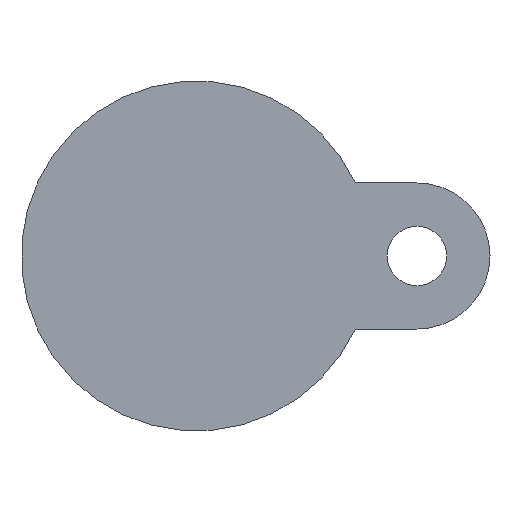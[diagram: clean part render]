
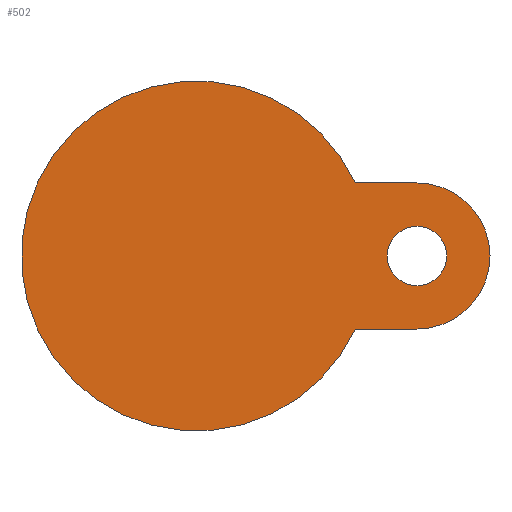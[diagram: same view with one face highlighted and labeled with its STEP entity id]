
A CAD part, front view. The second image highlights one B-rep face of the part: STEP entity #502.
In plain terms, the highlighted planar face has unit normal (0, -1, 0).
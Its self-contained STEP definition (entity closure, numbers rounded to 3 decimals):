
#124 = AXIS2_PLACEMENT_3D ( 'NONE', #2618, #2238, #3628 ) ;
#165 = VERTEX_POINT ( 'NONE', #2855 ) ;
#334 = CIRCLE ( 'NONE', #1865, 8.75 ) ;
#359 = PLANE ( 'NONE',  #4274 ) ;
#425 = DIRECTION ( 'NONE',  ( 1., 0., 0. ) ) ;
#429 = DIRECTION ( 'NONE',  ( 1., 0., 0. ) ) ;
#502 = ADVANCED_FACE ( 'NONE', ( #762, #3816 ), #359, .T. ) ;
#699 = VECTOR ( 'NONE', #1541, 1000. ) ;
#762 = FACE_BOUND ( 'NONE', #3742, .T. ) ;
#968 = DIRECTION ( 'NONE',  ( -1., 0., 0. ) ) ;
#980 = VERTEX_POINT ( 'NONE', #2438 ) ;
#1016 = CARTESIAN_POINT ( 'NONE',  ( 65., -28., 21.5 ) ) ;
#1323 = ORIENTED_EDGE ( 'NONE', *, *, #2581, .F. ) ;
#1535 = CARTESIAN_POINT ( 'NONE',  ( 65., -28., 0. ) ) ;
#1541 = DIRECTION ( 'NONE',  ( 1., 0., 0. ) ) ;
#1643 = AXIS2_PLACEMENT_3D ( 'NONE', #2734, #1669, #4438 ) ;
#1669 = DIRECTION ( 'NONE',  ( 0., 1., 0. ) ) ;
#1784 = ORIENTED_EDGE ( 'NONE', *, *, #3926, .T. ) ;
#1797 = CIRCLE ( 'NONE', #124, 8.75 ) ;
#1865 = AXIS2_PLACEMENT_3D ( 'NONE', #1535, #3309, #2968 ) ;
#1919 = ORIENTED_EDGE ( 'NONE', *, *, #2863, .T. ) ;
#2011 = VERTEX_POINT ( 'NONE', #2952 ) ;
#2029 = VERTEX_POINT ( 'NONE', #4039 ) ;
#2088 = CIRCLE ( 'NONE', #1643, 21.5 ) ;
#2114 = ORIENTED_EDGE ( 'NONE', *, *, #2445, .T. ) ;
#2158 = CARTESIAN_POINT ( 'NONE',  ( 51.5, -28., 0. ) ) ;
#2238 = DIRECTION ( 'NONE',  ( 0., 1., 0. ) ) ;
#2319 = LINE ( 'NONE', #3387, #2533 ) ;
#2357 = VERTEX_POINT ( 'NONE', #4387 ) ;
#2438 = CARTESIAN_POINT ( 'NONE',  ( 73.75, -28., 0. ) ) ;
#2445 = EDGE_CURVE ( 'NONE', #2011, #980, #334, .T. ) ;
#2533 = VECTOR ( 'NONE', #968, 1000. ) ;
#2581 = EDGE_CURVE ( 'NONE', #2357, #3127, #2869, .T. ) ;
#2618 = CARTESIAN_POINT ( 'NONE',  ( 65., -28., 0. ) ) ;
#2734 = CARTESIAN_POINT ( 'NONE',  ( 65., -28., 0. ) ) ;
#2833 = DIRECTION ( 'NONE',  ( 0., -1., 0. ) ) ;
#2855 = CARTESIAN_POINT ( 'NONE',  ( 65., -28., -21.5 ) ) ;
#2863 = EDGE_CURVE ( 'NONE', #980, #2011, #1797, .T. ) ;
#2869 = LINE ( 'NONE', #3958, #699 ) ;
#2952 = CARTESIAN_POINT ( 'NONE',  ( 56.25, -28., 0. ) ) ;
#2968 = DIRECTION ( 'NONE',  ( -1., 0., 0. ) ) ;
#3127 = VERTEX_POINT ( 'NONE', #1016 ) ;
#3309 = DIRECTION ( 'NONE',  ( 0., 1., 0. ) ) ;
#3379 = ORIENTED_EDGE ( 'NONE', *, *, #4072, .F. ) ;
#3387 = CARTESIAN_POINT ( 'NONE',  ( 36.5, -28., -21.5 ) ) ;
#3470 = CIRCLE ( 'NONE', #3611, 51.5 ) ;
#3490 = EDGE_LOOP ( 'NONE', ( #1784, #3379, #4439, #1323 ) ) ;
#3545 = DIRECTION ( 'NONE',  ( 0., -1., 0. ) ) ;
#3611 = AXIS2_PLACEMENT_3D ( 'NONE', #4314, #2833, #425 ) ;
#3628 = DIRECTION ( 'NONE',  ( -1., 0., 0. ) ) ;
#3742 = EDGE_LOOP ( 'NONE', ( #2114, #1919 ) ) ;
#3816 = FACE_OUTER_BOUND ( 'NONE', #3490, .T. ) ;
#3868 = EDGE_CURVE ( 'NONE', #3127, #165, #2088, .T. ) ;
#3926 = EDGE_CURVE ( 'NONE', #2357, #2029, #3470, .T. ) ;
#3958 = CARTESIAN_POINT ( 'NONE',  ( 36.5, -28., 21.5 ) ) ;
#4039 = CARTESIAN_POINT ( 'NONE',  ( 46.797, -28., -21.5 ) ) ;
#4072 = EDGE_CURVE ( 'NONE', #165, #2029, #2319, .T. ) ;
#4274 = AXIS2_PLACEMENT_3D ( 'NONE', #2158, #3545, #429 ) ;
#4314 = CARTESIAN_POINT ( 'NONE',  ( 0., -28., 0. ) ) ;
#4387 = CARTESIAN_POINT ( 'NONE',  ( 46.797, -28., 21.5 ) ) ;
#4438 = DIRECTION ( 'NONE',  ( 1., 0., 0. ) ) ;
#4439 = ORIENTED_EDGE ( 'NONE', *, *, #3868, .F. ) ;
